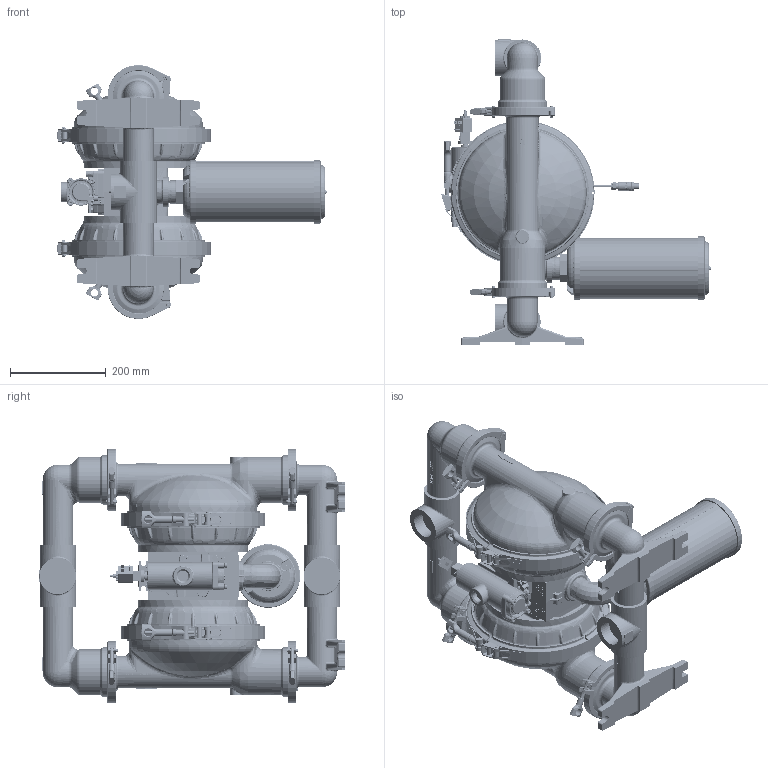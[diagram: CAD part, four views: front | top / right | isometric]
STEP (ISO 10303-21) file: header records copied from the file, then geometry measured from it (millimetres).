
FILE_DESCRIPTION((''),'2;1');
FILE_NAME('PRT0006','2021-04-13T14:10:11',('irgbqd'),(''),'CREO PARAMETRIC BY PTC INC, 2020342','CREO PARAMETRIC BY PTC INC, 2020342','');
FILE_SCHEMA(('CONFIG_CONTROL_DESIGN'));
Length unit declared in the file: millimetre
Products named in the file (1): PRT0006
Bounding box: 564 x 637.77 x 530.31 mm (x, y, z)
Volume: 30529689.2 mm3; surface area: 1434365.6 mm2
Topology: 1 solids, 3 shells, 10219 faces, 27446 edges, 17364 vertices
Faces by surface type: plane 5710, cylinder 1671, bspline 1081, torus 739, extrusion 500, cone 344, sphere 174
Entity records: 460175 total; most frequent: CARTESIAN_POINT 216764, ORIENTED_EDGE 54402, DIRECTION 44241, EDGE_CURVE 27201, VECTOR 17635, VERTEX_POINT 17366, LINE 17135, AXIS2_PLACEMENT_3D 13303
